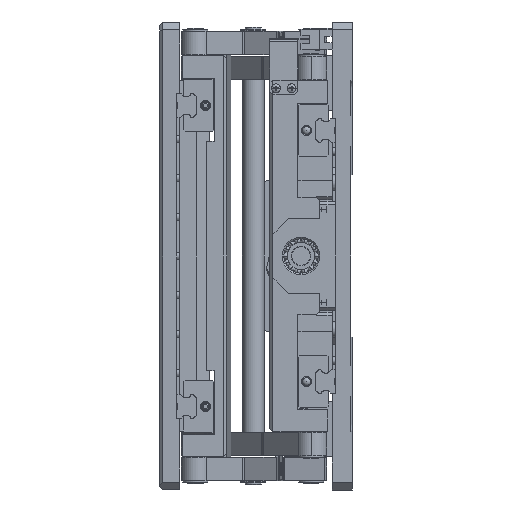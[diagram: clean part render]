
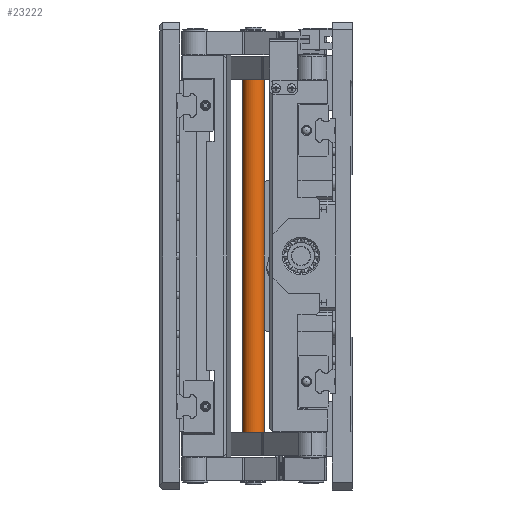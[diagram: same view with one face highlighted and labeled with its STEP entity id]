
A CAD part, left-side view. The second image highlights one B-rep face of the part: STEP entity #23222.
In plain terms, the highlighted cylindrical face has radius 7 mm (diameter 14 mm), a partial arc.
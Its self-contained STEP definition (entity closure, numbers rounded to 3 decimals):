
#2843 = LINE ( 'NONE', #63056, #27337 ) ;
#2882 = DIRECTION ( 'NONE',  ( 0., 0., 1. ) ) ;
#4538 = FACE_OUTER_BOUND ( 'NONE', #86611, .T. ) ;
#5288 = CARTESIAN_POINT ( 'NONE',  ( 7.088, 70.589, 113. ) ) ;
#8669 = CARTESIAN_POINT ( 'NONE',  ( 7.088, 70.589, 113. ) ) ;
#11859 = ORIENTED_EDGE ( 'NONE', *, *, #26213, .T. ) ;
#13206 = DIRECTION ( 'NONE',  ( 0., 0., 1. ) ) ;
#14933 = ORIENTED_EDGE ( 'NONE', *, *, #70569, .F. ) ;
#17645 = VERTEX_POINT ( 'NONE', #84360 ) ;
#21224 = ORIENTED_EDGE ( 'NONE', *, *, #27206, .T. ) ;
#23222 = ADVANCED_FACE ( 'NONE', ( #4538 ), #32408, .T. ) ;
#26213 = EDGE_CURVE ( 'NONE', #17645, #80488, #44080, .T. ) ;
#26766 = AXIS2_PLACEMENT_3D ( 'NONE', #66767, #13206, #26911 ) ;
#26911 = DIRECTION ( 'NONE',  ( 0.045, 0.999, 0. ) ) ;
#27206 = EDGE_CURVE ( 'NONE', #37636, #17645, #34370, .T. ) ;
#27337 = VECTOR ( 'NONE', #28519, 1000. ) ;
#28519 = DIRECTION ( 'NONE',  ( 0., 0., -1. ) ) ;
#30230 = VERTEX_POINT ( 'NONE', #34171 ) ;
#32408 = CYLINDRICAL_SURFACE ( 'NONE', #61962, 7. ) ;
#34130 = CARTESIAN_POINT ( 'NONE',  ( 6.462, 56.603, -113. ) ) ;
#34171 = CARTESIAN_POINT ( 'NONE',  ( 6.462, 56.603, 113. ) ) ;
#34186 = ORIENTED_EDGE ( 'NONE', *, *, #83795, .F. ) ;
#34370 = LINE ( 'NONE', #8669, #78170 ) ;
#35418 = CIRCLE ( 'NONE', #26766, 7. ) ;
#37300 = DIRECTION ( 'NONE',  ( -0.045, -0.999, 0. ) ) ;
#37636 = VERTEX_POINT ( 'NONE', #5288 ) ;
#44080 = CIRCLE ( 'NONE', #79359, 7. ) ;
#59424 = CARTESIAN_POINT ( 'NONE',  ( 6.775, 63.596, 113. ) ) ;
#61962 = AXIS2_PLACEMENT_3D ( 'NONE', #59424, #78455, #37300 ) ;
#63056 = CARTESIAN_POINT ( 'NONE',  ( 6.462, 56.603, 113. ) ) ;
#63530 = CARTESIAN_POINT ( 'NONE',  ( 6.775, 63.596, -113. ) ) ;
#66767 = CARTESIAN_POINT ( 'NONE',  ( 6.775, 63.596, 113. ) ) ;
#69313 = DIRECTION ( 'NONE',  ( 0., 0., -1. ) ) ;
#69738 = DIRECTION ( 'NONE',  ( 0.045, 0.999, 0. ) ) ;
#70569 = EDGE_CURVE ( 'NONE', #37636, #30230, #35418, .T. ) ;
#78170 = VECTOR ( 'NONE', #69313, 1000. ) ;
#78455 = DIRECTION ( 'NONE',  ( 0., 0., -1. ) ) ;
#79359 = AXIS2_PLACEMENT_3D ( 'NONE', #63530, #2882, #69738 ) ;
#80488 = VERTEX_POINT ( 'NONE', #34130 ) ;
#83795 = EDGE_CURVE ( 'NONE', #30230, #80488, #2843, .T. ) ;
#84360 = CARTESIAN_POINT ( 'NONE',  ( 7.088, 70.589, -113. ) ) ;
#86611 = EDGE_LOOP ( 'NONE', ( #14933, #21224, #11859, #34186 ) ) ;
